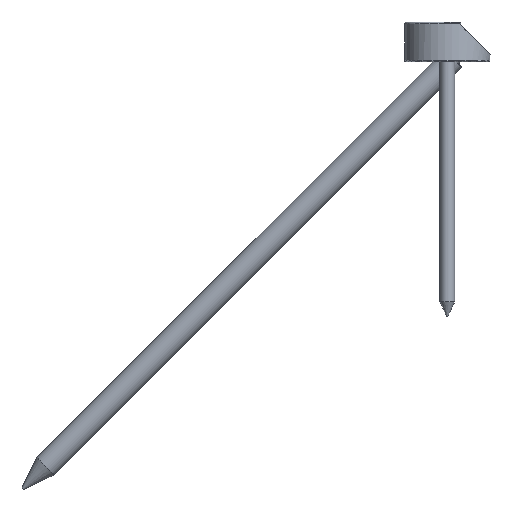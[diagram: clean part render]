
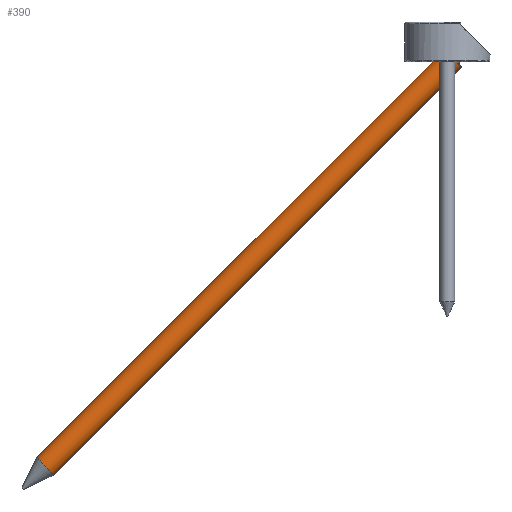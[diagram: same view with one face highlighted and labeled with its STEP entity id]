
A CAD part, left-side view. The second image highlights one B-rep face of the part: STEP entity #390.
In plain terms, the highlighted cylindrical face has radius 5 mm (diameter 10 mm), a full revolution.
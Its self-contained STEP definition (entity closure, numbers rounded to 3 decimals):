
#59=CYLINDRICAL_SURFACE('',#480,5.);
#91=CIRCLE('',#479,5.);
#92=CIRCLE('',#481,5.);
#165=ORIENTED_EDGE('',*,*,#206,.T.);
#166=ORIENTED_EDGE('',*,*,#205,.F.);
#205=EDGE_CURVE('',#238,#238,#91,.T.);
#206=EDGE_CURVE('',#239,#239,#92,.T.);
#238=VERTEX_POINT('',#733);
#239=VERTEX_POINT('',#736);
#297=EDGE_LOOP('',(#165));
#298=EDGE_LOOP('',(#166));
#350=FACE_BOUND('',#297,.T.);
#351=FACE_BOUND('',#298,.T.);
#390=ADVANCED_FACE('',(#350,#351),#59,.T.);
#479=AXIS2_PLACEMENT_3D('',#732,#602,#603);
#480=AXIS2_PLACEMENT_3D('',#734,#604,#605);
#481=AXIS2_PLACEMENT_3D('',#735,#606,#607);
#602=DIRECTION('',(0.,1.,0.));
#603=DIRECTION('',(0.,0.,1.));
#604=DIRECTION('',(0.,1.,0.));
#605=DIRECTION('',(0.,0.,1.));
#606=DIRECTION('',(0.,1.,0.));
#607=DIRECTION('',(0.,0.,1.));
#732=CARTESIAN_POINT('',(0.,42.,0.));
#733=CARTESIAN_POINT('',(0.,42.,5.));
#734=CARTESIAN_POINT('',(0.,54.,0.));
#735=CARTESIAN_POINT('',(0.,-193.,0.));
#736=CARTESIAN_POINT('',(0.,-193.,5.));
